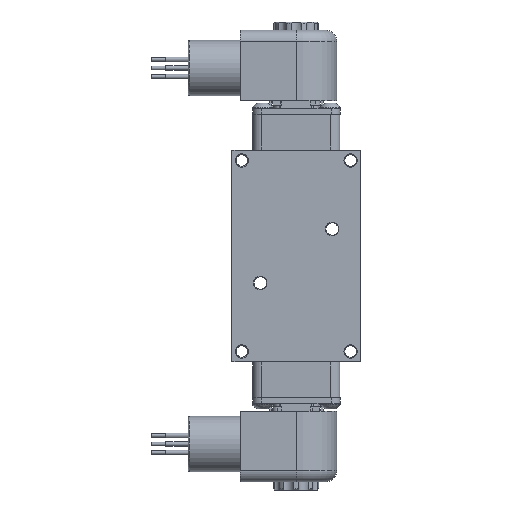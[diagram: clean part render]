
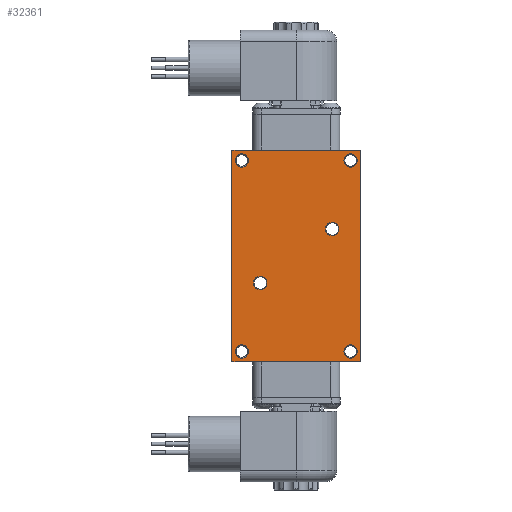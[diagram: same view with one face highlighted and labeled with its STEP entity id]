
A CAD part, front view. The second image highlights one B-rep face of the part: STEP entity #32361.
In plain terms, the highlighted planar face has unit normal (0, -1, 0).
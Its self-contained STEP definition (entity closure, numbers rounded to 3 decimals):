
#1159=LINE('',#51626,#3152);
#1175=LINE('',#52397,#3168);
#1183=LINE('',#52575,#3176);
#1422=LINE('',#53985,#3415);
#3152=VECTOR('',#41506,9.421);
#3168=VECTOR('',#41888,5.715);
#3176=VECTOR('',#41964,9.421);
#3415=VECTOR('',#42361,5.715);
#6042=FACE_BOUND('',#9717,.T.);
#6043=FACE_BOUND('',#9718,.T.);
#6044=FACE_BOUND('',#9719,.T.);
#6045=FACE_BOUND('',#9720,.T.);
#6046=FACE_BOUND('',#9721,.T.);
#6047=FACE_BOUND('',#9722,.T.);
#7335=FACE_OUTER_BOUND('',#9716,.T.);
#9716=EDGE_LOOP('',(#24531,#24532,#24533,#24534));
#9717=EDGE_LOOP('',(#24535));
#9718=EDGE_LOOP('',(#24536));
#9719=EDGE_LOOP('',(#24537));
#9720=EDGE_LOOP('',(#24538));
#9721=EDGE_LOOP('',(#24539));
#9722=EDGE_LOOP('',(#24540));
#11729=CIRCLE('',#35094,0.298);
#11731=CIRCLE('',#35098,0.298);
#11733=CIRCLE('',#35102,0.298);
#11735=CIRCLE('',#35106,0.298);
#11816=CIRCLE('',#35355,0.298);
#11818=CIRCLE('',#35359,0.298);
#13959=VERTEX_POINT('',#51623);
#13960=VERTEX_POINT('',#51625);
#13997=VERTEX_POINT('',#51925);
#13999=VERTEX_POINT('',#51931);
#14001=VERTEX_POINT('',#51937);
#14003=VERTEX_POINT('',#51943);
#14077=VERTEX_POINT('',#52395);
#14098=VERTEX_POINT('',#52573);
#14319=VERTEX_POINT('',#53979);
#14321=VERTEX_POINT('',#53986);
#17458=EDGE_CURVE('',#13959,#13960,#1159,.T.);
#17502=EDGE_CURVE('',#13997,#13997,#11729,.T.);
#17504=EDGE_CURVE('',#13999,#13999,#11731,.T.);
#17506=EDGE_CURVE('',#14001,#14001,#11733,.T.);
#17508=EDGE_CURVE('',#14003,#14003,#11735,.T.);
#17590=EDGE_CURVE('',#14077,#13959,#1175,.T.);
#17618=EDGE_CURVE('',#14098,#14077,#1183,.T.);
#17950=EDGE_CURVE('',#14319,#14319,#11816,.T.);
#17952=EDGE_CURVE('',#13960,#14098,#1422,.T.);
#17953=EDGE_CURVE('',#14321,#14321,#11818,.T.);
#24531=ORIENTED_EDGE('',*,*,#17590,.F.);
#24532=ORIENTED_EDGE('',*,*,#17618,.F.);
#24533=ORIENTED_EDGE('',*,*,#17952,.F.);
#24534=ORIENTED_EDGE('',*,*,#17458,.F.);
#24535=ORIENTED_EDGE('',*,*,#17950,.F.);
#24536=ORIENTED_EDGE('',*,*,#17508,.T.);
#24537=ORIENTED_EDGE('',*,*,#17506,.T.);
#24538=ORIENTED_EDGE('',*,*,#17504,.T.);
#24539=ORIENTED_EDGE('',*,*,#17502,.T.);
#24540=ORIENTED_EDGE('',*,*,#17953,.F.);
#28935=PLANE('',#35358);
#32361=ADVANCED_FACE('',(#7335,#6042,#6043,#6044,#6045,#6046,#6047),#28935,
 .F.);
#35094=AXIS2_PLACEMENT_3D('',#51926,#41582,#41583);
#35098=AXIS2_PLACEMENT_3D('',#51932,#41590,#41591);
#35102=AXIS2_PLACEMENT_3D('',#51938,#41598,#41599);
#35106=AXIS2_PLACEMENT_3D('',#51944,#41606,#41607);
#35355=AXIS2_PLACEMENT_3D('',#53980,#42353,#42354);
#35358=AXIS2_PLACEMENT_3D('',#53984,#42359,#42360);
#35359=AXIS2_PLACEMENT_3D('',#53987,#42362,#42363);
#41506=DIRECTION('',(0.,0.,1.));
#41582=DIRECTION('center_axis',(0.,1.,0.));
#41583=DIRECTION('ref_axis',(1.,0.,0.));
#41590=DIRECTION('center_axis',(0.,1.,0.));
#41591=DIRECTION('ref_axis',(1.,0.,0.));
#41598=DIRECTION('center_axis',(0.,1.,0.));
#41599=DIRECTION('ref_axis',(1.,0.,0.));
#41606=DIRECTION('center_axis',(0.,1.,0.));
#41607=DIRECTION('ref_axis',(1.,0.,0.));
#41888=DIRECTION('',(-1.,0.,0.));
#41964=DIRECTION('',(0.,0.,-1.));
#42353=DIRECTION('center_axis',(0.,-1.,0.));
#42354=DIRECTION('ref_axis',(-1.,0.,0.));
#42359=DIRECTION('center_axis',(0.,1.,0.));
#42360=DIRECTION('ref_axis',(0.,0.,1.));
#42361=DIRECTION('',(1.,0.,0.));
#42362=DIRECTION('center_axis',(0.,-1.,0.));
#42363=DIRECTION('ref_axis',(-1.,0.,0.));
#51623=CARTESIAN_POINT('',(-2.858,0.,-4.71));
#51625=CARTESIAN_POINT('',(-2.858,0.,4.71));
#51626=CARTESIAN_POINT('',(-2.858,0.,-4.71));
#51925=CARTESIAN_POINT('',(-2.123,0.,4.246));
#51926=CARTESIAN_POINT('Origin',(-2.421,0.,4.246));
#51931=CARTESIAN_POINT('',(-2.123,0.,-4.248));
#51932=CARTESIAN_POINT('Origin',(-2.421,0.,-4.248));
#51937=CARTESIAN_POINT('',(2.718,0.,4.246));
#51938=CARTESIAN_POINT('Origin',(2.421,0.,4.246));
#51943=CARTESIAN_POINT('',(2.718,0.,-4.248));
#51944=CARTESIAN_POINT('Origin',(2.421,0.,-4.248));
#52395=CARTESIAN_POINT('',(2.858,0.,-4.71));
#52397=CARTESIAN_POINT('',(2.858,0.,-4.71));
#52573=CARTESIAN_POINT('',(2.858,0.,4.71));
#52575=CARTESIAN_POINT('',(2.858,0.,4.71));
#53979=CARTESIAN_POINT('',(1.898,0.,1.2));
#53980=CARTESIAN_POINT('Origin',(1.6,0.,1.2));
#53984=CARTESIAN_POINT('Origin',(0.,0.,0.));
#53985=CARTESIAN_POINT('',(-2.858,0.,4.71));
#53986=CARTESIAN_POINT('',(-1.303,0.,-1.203));
#53987=CARTESIAN_POINT('Origin',(-1.6,0.,-1.203));
